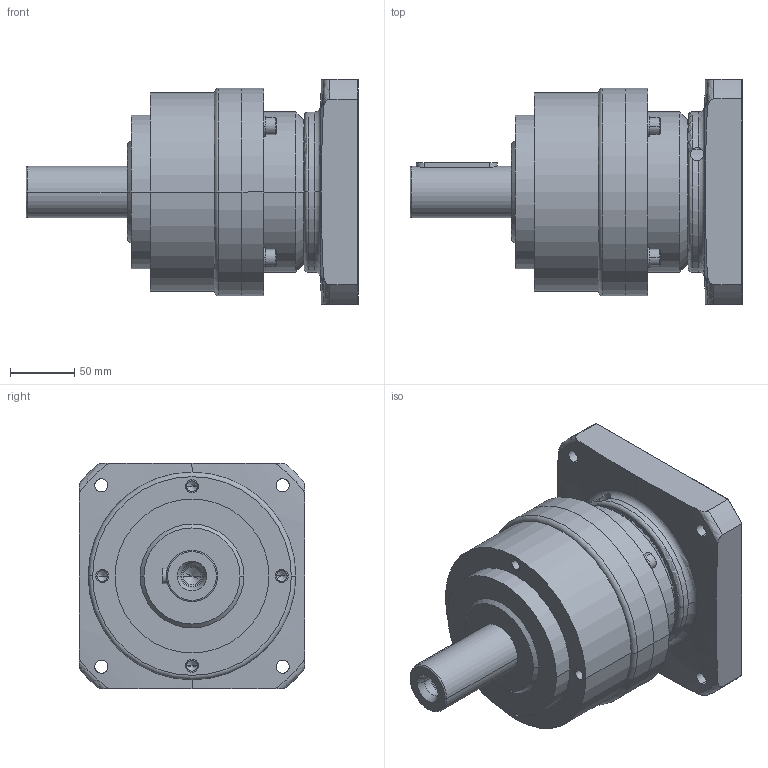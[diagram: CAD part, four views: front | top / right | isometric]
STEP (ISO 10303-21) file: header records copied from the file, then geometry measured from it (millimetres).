
FILE_DESCRIPTION((''),'2;1');
FILE_NAME('AE1551-P0403500801_ASM','2008-09-11T',('d00080'),(''),'PRO/ENGINEER BY PARAMETRIC TECHNOLOGY CORPORATION, 2006170','PRO/ENGINEER BY PARAMETRIC TECHNOLOGY CORPORATION, 2006170','');
FILE_SCHEMA(('CONFIG_CONTROL_DESIGN'));
Length unit declared in the file: millimetre
Products named in the file (7): AE155-1; P1302500001; 233100005; 220100804; COVER-SET-5_ASM; P0403500801; AE1551-P0403500801_ASM
Assembly tree (12 placements, depth 3):
  AE1551-P0403500801_ASM
    AE155-1
    COVER-SET-5_ASM
      P1302500001
      233100005  x4
      220100804  x4
    P0403500801
Bounding box: 259 x 176 x 176 mm (x, y, z)
Volume: 2956843.9 mm3; surface area: 294365 mm2
Topology: 11 solids, 20 shells, 426 faces, 1024 edges, 639 vertices
Faces by surface type: cylinder 182, plane 140, cone 62, torus 40, bspline 2
Entity records: 10372 total; most frequent: CARTESIAN_POINT 2411, DIRECTION 1780, ORIENTED_EDGE 1524, EDGE_CURVE 780, AXIS2_PLACEMENT_3D 739, VERTEX_POINT 501, CIRCLE 397, EDGE_LOOP 373
